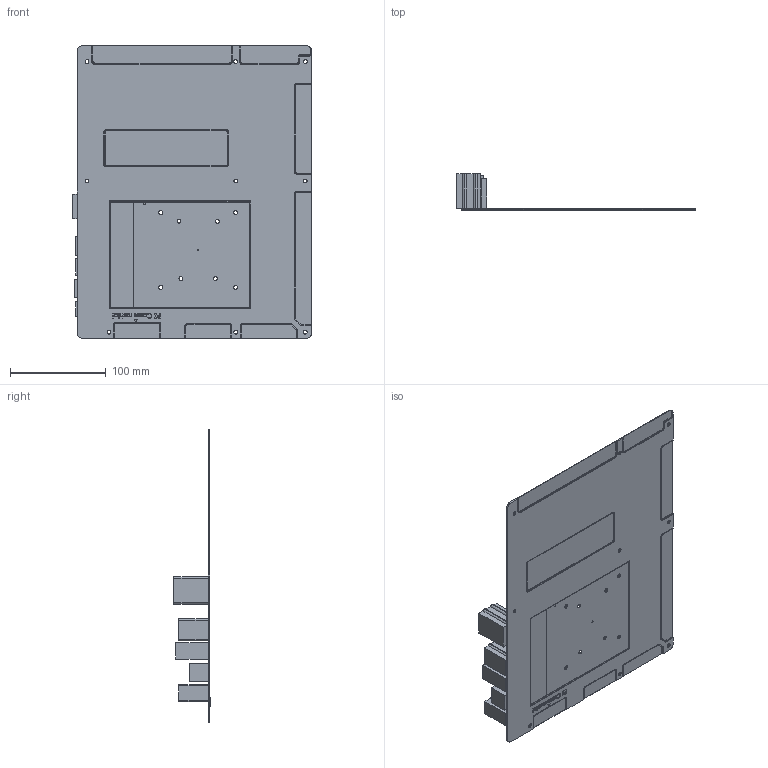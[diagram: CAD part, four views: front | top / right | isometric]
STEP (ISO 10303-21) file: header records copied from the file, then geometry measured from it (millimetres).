
FILE_DESCRIPTION (( 'STEP AP214' ), '1' );
FILE_NAME ('ATX_Case_20240704_3D.STEP', '2024-07-04T09:47:31', ( 'Windows 使用者' ), ( '' ), 'SwSTEP 2.0', 'SolidWorks 2023', '' );
FILE_SCHEMA (( 'AUTOMOTIVE_DESIGN' ));
Length unit declared in the file: millimetre
Products named in the file (11): 17E17-0A-TOP_20230816_2002.dxf; 000_MS_7E23__CASE_20230707; COMPONENTS_1_1; JACK_AUD_D26P_1; USB_A4_26_1P_1; 17E23-1-0706-2_1; IOASM_USB_DIN14_1; ATX_Case_20240704_3D; IOA_RJ45_USB_LEDX2_23_4P_1; 01_ATX_PCB_MS_7E23_20240205B; IOA_HDMI_DP_D39_3P_1
Assembly tree (9 placements, depth 5):
  17E17-0A-TOP_20230816_2002.dxf
  ATX_Case_20240704_3D
    01_ATX_PCB_MS_7E23_20240205B
    000_MS_7E23__CASE_20230707
      17E23-1-0706-2_1
        COMPONENTS_1_1
          IOA_RJ45_USB_LEDX2_23_4P_1
          IOASM_USB_DIN14_1
          IOA_HDMI_DP_D39_3P_1
          JACK_AUD_D26P_1
          USB_A4_26_1P_1
Bounding box: 248.67 x 37.74 x 304.8 mm (x, y, z)
Volume: 167237.9 mm3; surface area: 169770.1 mm2
Topology: 6 solids, 6 shells, 528 faces, 1425 edges, 933 vertices
Faces by surface type: plane 239, cylinder 149, bspline 115, torus 25
Entity records: 27470 total; most frequent: CARTESIAN_POINT 8543, ORIENTED_EDGE 2850, DIRECTION 2361, EDGE_CURVE 1425, VERTEX_POINT 933, VECTOR 871, LINE 871, AXIS2_PLACEMENT_3D 745
